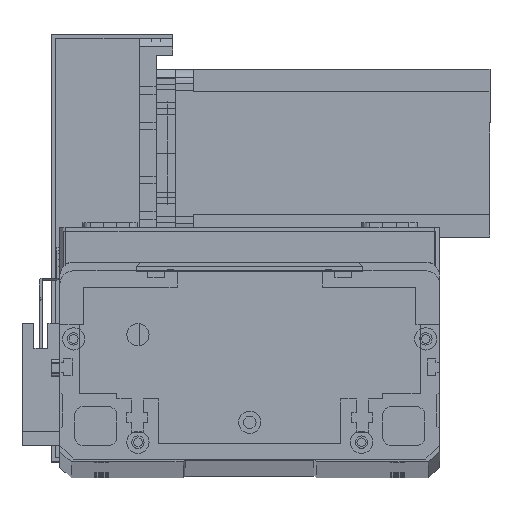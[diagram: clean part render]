
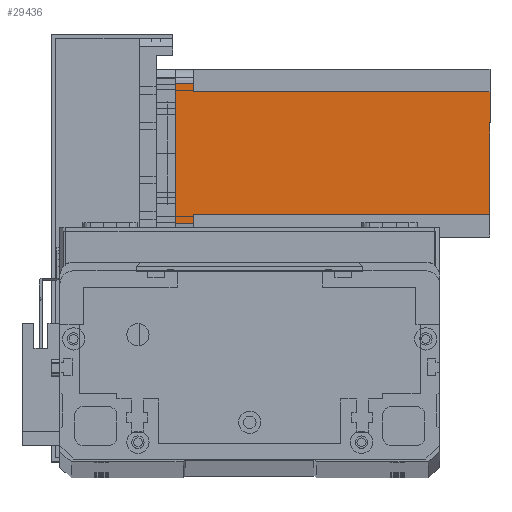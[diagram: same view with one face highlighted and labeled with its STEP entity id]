
A CAD part, top view. The second image highlights one B-rep face of the part: STEP entity #29436.
In plain terms, the highlighted planar face has unit normal (0, 0, 1) as drawn and (0, -1, 0) by its records, which use the part's own axes.
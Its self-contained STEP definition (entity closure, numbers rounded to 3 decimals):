
#803 = CARTESIAN_POINT ( 'NONE',  ( 52., 0., -112.5 ) ) ;
#1486 = LINE ( 'NONE', #2185, #3046 ) ;
#1625 = ORIENTED_EDGE ( 'NONE', *, *, #29287, .T. ) ;
#2185 = CARTESIAN_POINT ( 'NONE',  ( 5., 0., -112.5 ) ) ;
#2695 = VECTOR ( 'NONE', #19014, 1000. ) ;
#3046 = VECTOR ( 'NONE', #7119, 1000. ) ;
#3473 = AXIS2_PLACEMENT_3D ( 'NONE', #14218, #11870, #28642 ) ;
#4377 = PLANE ( 'NONE',  #3473 ) ;
#5460 = DIRECTION ( 'NONE',  ( -1., 0., 0. ) ) ;
#5634 = LINE ( 'NONE', #27326, #17886 ) ;
#7119 = DIRECTION ( 'NONE',  ( 0., 0., -1. ) ) ;
#7233 = ORIENTED_EDGE ( 'NONE', *, *, #20751, .F. ) ;
#7680 = VERTEX_POINT ( 'NONE', #803 ) ;
#7967 = VERTEX_POINT ( 'NONE', #8214 ) ;
#8030 = DIRECTION ( 'NONE',  ( 1., 0., 0. ) ) ;
#8214 = CARTESIAN_POINT ( 'NONE',  ( 5., 0., -6.5 ) ) ;
#8337 = ORIENTED_EDGE ( 'NONE', *, *, #30424, .F. ) ;
#8394 = LINE ( 'NONE', #27652, #19763 ) ;
#8653 = CARTESIAN_POINT ( 'NONE',  ( 52., 0., -112.5 ) ) ;
#8872 = CARTESIAN_POINT ( 'NONE',  ( 55., 0., -112.5 ) ) ;
#9724 = CARTESIAN_POINT ( 'NONE',  ( 5., 0., 0. ) ) ;
#10013 = ORIENTED_EDGE ( 'NONE', *, *, #30866, .F. ) ;
#10110 = LINE ( 'NONE', #23846, #2695 ) ;
#11457 = CARTESIAN_POINT ( 'NONE',  ( 0., 0., 0. ) ) ;
#11870 = DIRECTION ( 'NONE',  ( 0., -1., 0. ) ) ;
#12066 = VERTEX_POINT ( 'NONE', #28867 ) ;
#12181 = ORIENTED_EDGE ( 'NONE', *, *, #30700, .T. ) ;
#12466 = VERTEX_POINT ( 'NONE', #22401 ) ;
#12500 = ORIENTED_EDGE ( 'NONE', *, *, #29711, .F. ) ;
#13921 = CARTESIAN_POINT ( 'NONE',  ( 55., 0., 0. ) ) ;
#14218 = CARTESIAN_POINT ( 'NONE',  ( 0., 0., -112.5 ) ) ;
#14930 = EDGE_LOOP ( 'NONE', ( #19114, #1625, #7233, #24753, #12500, #8337, #12181, #10013 ) ) ;
#15027 = VECTOR ( 'NONE', #25742, 1000. ) ;
#15252 = CARTESIAN_POINT ( 'NONE',  ( 8., 0., -6.5 ) ) ;
#15412 = VERTEX_POINT ( 'NONE', #18916 ) ;
#15560 = LINE ( 'NONE', #11457, #27526 ) ;
#15588 = VERTEX_POINT ( 'NONE', #16254 ) ;
#15767 = VECTOR ( 'NONE', #5460, 1000. ) ;
#16254 = CARTESIAN_POINT ( 'NONE',  ( 8., 0., -6.5 ) ) ;
#17886 = VECTOR ( 'NONE', #8030, 1000. ) ;
#18346 = DIRECTION ( 'NONE',  ( 0., 0., -1. ) ) ;
#18916 = CARTESIAN_POINT ( 'NONE',  ( 8., 0., -112.5 ) ) ;
#19014 = DIRECTION ( 'NONE',  ( 1., 0., 0. ) ) ;
#19114 = ORIENTED_EDGE ( 'NONE', *, *, #28801, .T. ) ;
#19763 = VECTOR ( 'NONE', #30046, 1000. ) ;
#20629 = LINE ( 'NONE', #8872, #15027 ) ;
#20751 = EDGE_CURVE ( 'NONE', #29595, #30573, #15560, .T. ) ;
#22401 = CARTESIAN_POINT ( 'NONE',  ( 55., 0., -6.5 ) ) ;
#22890 = LINE ( 'NONE', #15252, #15767 ) ;
#23451 = DIRECTION ( 'NONE',  ( 1., 0., 0. ) ) ;
#23846 = CARTESIAN_POINT ( 'NONE',  ( 52., 0., -6.5 ) ) ;
#24026 = FACE_OUTER_BOUND ( 'NONE', #14930, .T. ) ;
#24753 = ORIENTED_EDGE ( 'NONE', *, *, #29539, .T. ) ;
#25354 = VECTOR ( 'NONE', #18346, 1000. ) ;
#25742 = DIRECTION ( 'NONE',  ( 0., 0., 1. ) ) ;
#26846 = LINE ( 'NONE', #8653, #25354 ) ;
#27326 = CARTESIAN_POINT ( 'NONE',  ( 0., 0., -112.5 ) ) ;
#27526 = VECTOR ( 'NONE', #23451, 1000. ) ;
#27652 = CARTESIAN_POINT ( 'NONE',  ( 8., 0., -112.5 ) ) ;
#28642 = DIRECTION ( 'NONE',  ( 0., 0., -1. ) ) ;
#28801 = EDGE_CURVE ( 'NONE', #12066, #12466, #10110, .T. ) ;
#28867 = CARTESIAN_POINT ( 'NONE',  ( 52., 0., -6.5 ) ) ;
#29287 = EDGE_CURVE ( 'NONE', #12466, #30573, #20629, .T. ) ;
#29436 = ADVANCED_FACE ( 'NONE', ( #24026 ), #4377, .T. ) ;
#29539 = EDGE_CURVE ( 'NONE', #29595, #7967, #1486, .T. ) ;
#29595 = VERTEX_POINT ( 'NONE', #9724 ) ;
#29711 = EDGE_CURVE ( 'NONE', #15588, #7967, #22890, .T. ) ;
#30046 = DIRECTION ( 'NONE',  ( 0., 0., 1. ) ) ;
#30424 = EDGE_CURVE ( 'NONE', #15412, #15588, #8394, .T. ) ;
#30573 = VERTEX_POINT ( 'NONE', #13921 ) ;
#30700 = EDGE_CURVE ( 'NONE', #15412, #7680, #5634, .T. ) ;
#30866 = EDGE_CURVE ( 'NONE', #12066, #7680, #26846, .T. ) ;
